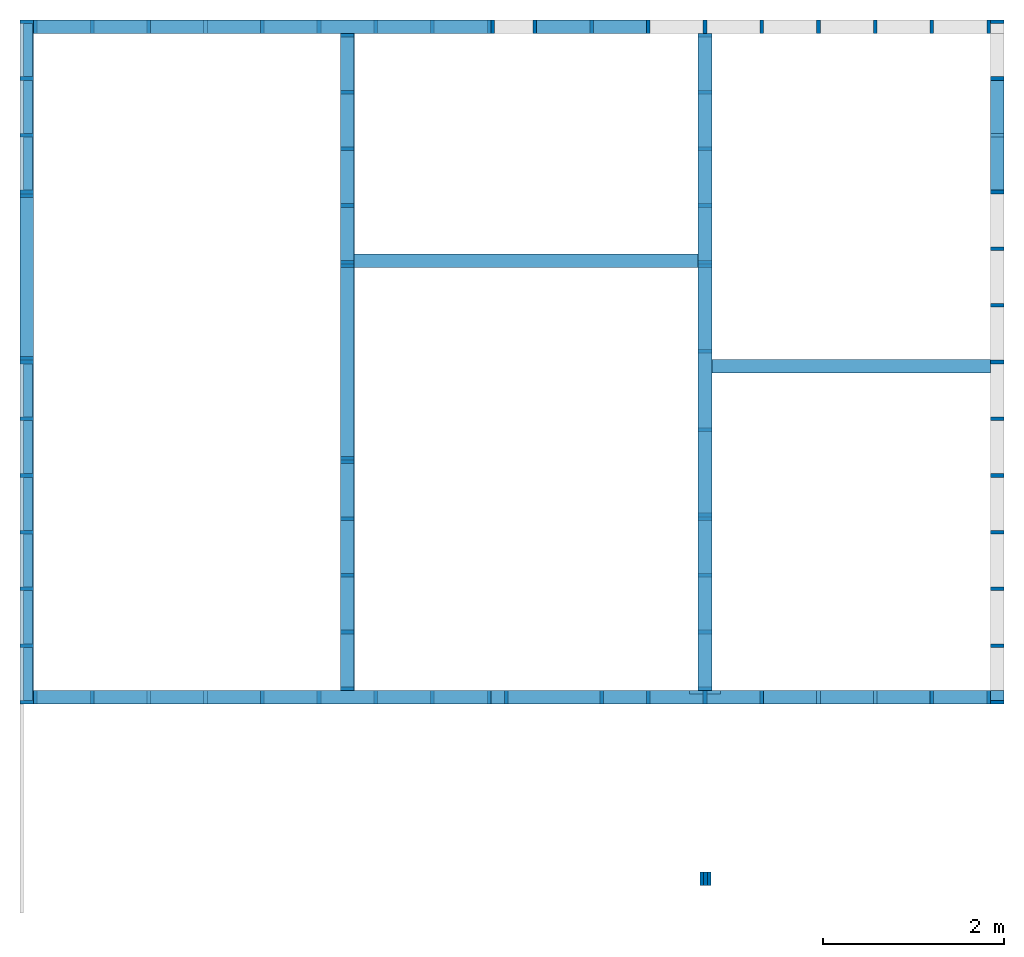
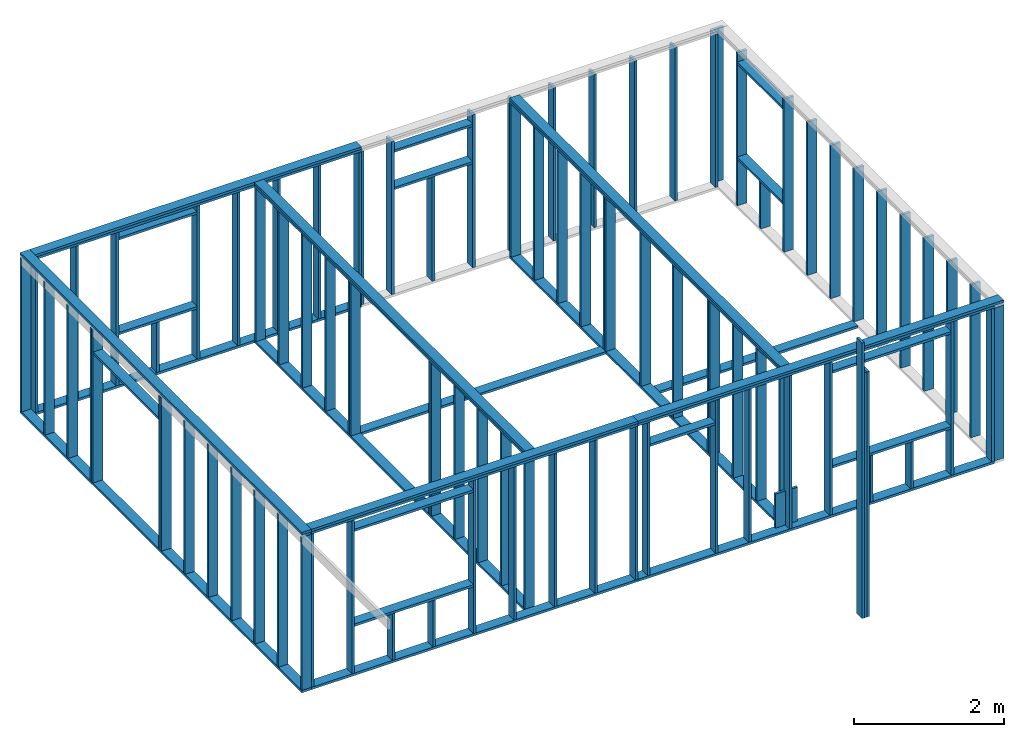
# One storey, part 1 of 2: 91 columns, 34 beams.
"""IFC4 building model written with IfcOpenShell, lengths in millimetres."""

from ifc_helpers import new_model, si_unit, derived_unit, frame, origin_with_axes, place, context, subcontext, project, spatial, line, indexed_curve, outline, extrude, polygons, source, transform, mapped, material, type_object, element, save


model = new_model("IFC4")

# Units and contexts
model_context = context("Model", 3, precision=1e-06, world=origin_with_axes())
body_context = subcontext(model_context, "Body", "Model", "MODEL_VIEW")
ifc_project = project(units=[si_unit("LENGTHUNIT", "METRE", prefix="MILLI"), si_unit("AREAUNIT", "SQUARE_METRE"), si_unit("VOLUMEUNIT", "CUBIC_METRE"), si_unit("MASSUNIT", "GRAM", prefix="KILO"), si_unit("ELECTRICVOLTAGEUNIT", "VOLT", prefix="KILO"), si_unit("THERMODYNAMICTEMPERATUREUNIT", "DEGREE_CELSIUS"), si_unit("PRESSUREUNIT", "PASCAL", prefix="MEGA"), si_unit("PLANEANGLEUNIT", "RADIAN"), derived_unit("THERMALCONDUCTANCEUNIT", [(si_unit("POWERUNIT", "WATT"), 1), (si_unit("LENGTHUNIT", "METRE"), -1), (si_unit("THERMODYNAMICTEMPERATUREUNIT", "KELVIN"), -1)]), derived_unit("MASSDENSITYUNIT", [(si_unit("MASSUNIT", "GRAM", prefix="KILO"), 1), (si_unit("VOLUMEUNIT", "CUBIC_METRE"), -1)])], contexts=[model_context])

# Site, building, storey
site_placement = place(None, origin_with_axes())
site = spatial("IfcSite", under=ifc_project, at=site_placement, CompositionType="ELEMENT")
building_placement = place(site_placement, origin_with_axes())
building = spatial("IfcBuilding", under=site, at=building_placement, CompositionType="ELEMENT")
storey_placement = place(building_placement, origin_with_axes())
storey = spatial("IfcBuildingStorey", under=building, at=storey_placement, Name="Базовый уровень", CompositionType="ELEMENT", Elevation=0.0)

# Columns
ifc_material_1 = material(Name="Древесина тёмная")
column_type = type_object("IfcColumnType", Name="Доска 40x150", PredefinedType="COLUMN")
shared_shape_1 = source(origin_with_axes(), body_context, "Body", "SweptSolid", [
    extrude(outline(indexed_curve([(-75.0, -20.0), (75.0, -20.0), (75.0, 20.0), (-75.0, 20.0)], segments=[line(1, 2), line(2, 3), line(3, 4), line(4, 1)])), origin_with_axes(), (0.0, 0.0, 1.0), 2500.0),
])
for number, where, z_axis, x_axis in (
    (1, (10770.000000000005, 7519.999999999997, 40.0), (0.0, 0.0, 1.0), (1.0, 0.0, 0.0)),
    (2, (10675.000000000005, 7464.999999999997, 40.0), (0.0, 0.0, 1.0), (0.0, 1.0, 0.0)),
    (3, (10770.000000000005, 6894.999999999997, 40.0), (0.0, 0.0, 1.0), (1.0, 0.0, 0.0)),
    (4, (10770.000000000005, 5644.999999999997, 40.0), (0.0, 0.0, 1.0), (1.0, 0.0, 0.0)),
    (5, (10770.000000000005, 5019.999999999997, 40.0), (0.0, 0.0, 1.0), (1.0, 0.0, 0.0)),
    (6, (10770.000000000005, 4394.999999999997, 40.0), (0.0, 0.0, 1.0), (1.0, 0.0, 0.0)),
    (7, (10770.000000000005, 3769.9999999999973, 40.0), (0.0, 0.0, 1.0), (1.0, 0.0, 0.0)),
    (8, (10770.000000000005, 3144.9999999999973, 40.0), (0.0, 0.0, 1.0), (1.0, 0.0, 0.0)),
    (9, (10770.000000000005, 2519.9999999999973, 40.0), (0.0, 0.0, 1.0), (1.0, 0.0, 0.0)),
    (10, (10770.000000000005, 1894.9999999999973, 40.0), (0.0, 0.0, 1.0), (1.0, 0.0, 0.0)),
    (11, (10770.000000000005, 1269.9999999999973, 40.0), (0.0, 0.0, 1.0), (1.0, 0.0, 0.0)),
    (12, (10770.000000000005, 644.9999999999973, 40.0), (0.0, 0.0, 1.0), (1.0, 0.0, 0.0)),
    (13, (10770.000000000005, 19.99999999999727, 40.0), (0.0, 0.0, 1.0), (1.0, 0.0, 0.0)),
    (14, (10050.000000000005, 7464.999999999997, 40.0), (0.0, 0.0, 1.0), (0.0, 1.0, 0.0)),
    (15, (9425.000000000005, 7464.999999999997, 40.0), (0.0, 0.0, 1.0), (0.0, 1.0, 0.0)),
    (16, (8800.000000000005, 7464.999999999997, 40.0), (0.0, 0.0, 1.0), (0.0, 1.0, 0.0)),
    (17, (8175.0000000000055, 7464.999999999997, 40.0), (0.0, 0.0, 1.0), (0.0, 1.0, 0.0)),
    (18, (7550.0000000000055, 7464.999999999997, 40.0), (0.0, 0.0, 1.0), (0.0, 1.0, 0.0)),
    (19, (6925.0000000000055, 7464.999999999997, 40.0), (0.0, 0.0, 1.0), (0.0, 1.0, 0.0)),
    (20, (5675.0000000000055, 7464.999999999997, 40.0), (0.0, 0.0, 1.0), (0.0, 1.0, 0.0)),
    (21, (5210.0, 7464.999999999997, 40.0), (0.0, 0.0, 1.0), (0.0, 1.0, 0.0)),
    (22, (5170.0, 7464.999999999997, 40.0), (0.0, 0.0, 1.0), (0.0, 1.0, 0.0)),
    (23, (4545.0, 7464.999999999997, 40.0), (0.0, 0.0, 1.0), (0.0, 1.0, 0.0)),
    (24, (3920.0, 7464.999999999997, 40.0), (0.0, 0.0, 1.0), (0.0, 1.0, 0.0)),
    (25, (3295.0, 7464.999999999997, 40.0), (0.0, 0.0, 1.0), (0.0, 1.0, 0.0)),
    (26, (2670.0, 7464.999999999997, 40.0), (0.0, 0.0, 1.0), (0.0, 1.0, 0.0)),
    (27, (1420.0, 7464.999999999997, 40.0), (0.0, 0.0, 1.0), (0.0, 1.0, 0.0)),
    (28, (795.0, 7464.999999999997, 40.0), (0.0, 0.0, 1.0), (0.0, 1.0, 0.0)),
    (29, (170.0, 7464.999999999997, 40.0), (0.0, 0.0, 1.0), (0.0, 1.0, 0.0)),
    (30, (75.0, 7519.999999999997, 40.0), (0.0, 0.0, 1.0), (1.0, 0.0, 0.0)),
    (31, (75.0, 6894.999999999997, 40.0), (0.0, 0.0, 1.0), (1.0, 0.0, 0.0)),
    (32, (75.0, 6269.999999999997, 40.0), (0.0, 0.0, 1.0), (1.0, 0.0, 0.0)),
    (33, (75.0, 5644.999999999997, 40.0), (0.0, 0.0, 1.0), (1.0, 0.0, 0.0)),
    (34, (10675.000000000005, 74.99999999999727, 40.0), (0.0, 0.0, 1.0), (0.0, 1.0, 0.0)),
    (35, (75.0, 3769.9999999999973, 40.0), (0.0, 0.0, 1.0), (1.0, 0.0, 0.0)),
    (36, (75.0, 3809.9999999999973, 40.0), (0.0, 0.0, 1.0), (1.0, 0.0, 0.0)),
    (37, (75.0, 5604.999999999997, 40.0), (0.0, 0.0, 1.0), (1.0, 0.0, 0.0)),
    (38, (10050.000000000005, 74.99999999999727, 40.0), (0.0, 0.0, 1.0), (0.0, 1.0, 0.0)),
    (39, (8175.0000000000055, 74.99999999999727, 40.0), (0.0, 0.0, 1.0), (0.0, 1.0, 0.0)),
    (40, (75.0, 3144.9999999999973, 40.0), (0.0, 0.0, 1.0), (1.0, 0.0, 0.0)),
    (41, (75.0, 2519.9999999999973, 40.0), (0.0, 0.0, 1.0), (1.0, 0.0, 0.0)),
    (42, (75.0, 1894.9999999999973, 40.0), (0.0, 0.0, 1.0), (1.0, 0.0, 0.0)),
    (43, (75.0, 1269.9999999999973, 40.0), (0.0, 0.0, 1.0), (1.0, 0.0, 0.0)),
    (44, (75.0, 644.9999999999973, 40.0), (0.0, 0.0, 1.0), (1.0, 0.0, 0.0)),
    (45, (75.0, 19.99999999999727, 40.0), (0.0, 0.0, 1.0), (1.0, 0.0, 0.0)),
    (46, (170.0, 74.99999999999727, 40.0), (0.0, 0.0, 1.0), (0.0, 1.0, 0.0)),
    (47, (795.0, 74.99999999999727, 40.0), (0.0, 0.0, 1.0), (0.0, 1.0, 0.0)),
    (48, (2670.0, 74.99999999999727, 40.0), (0.0, 0.0, 1.0), (0.0, 1.0, 0.0)),
    (49, (3295.0, 74.99999999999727, 40.0), (0.0, 0.0, 1.0), (0.0, 1.0, 0.0)),
    (50, (3920.0, 74.99999999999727, 40.0), (0.0, 0.0, 1.0), (0.0, 1.0, 0.0)),
    (51, (4545.0, 74.99999999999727, 40.0), (0.0, 0.0, 1.0), (0.0, 1.0, 0.0)),
    (52, (5170.0, 74.99999999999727, 40.0), (0.0, 0.0, 1.0), (0.0, 1.0, 0.0)),
    (53, (5360.0, 74.99999999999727, 40.0), (0.0, 0.0, 1.0), (0.0, 1.0, 0.0)),
    (54, (7550.0000000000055, 74.99999999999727, 40.0), (0.0, 0.0, 1.0), (0.0, 1.0, 0.0)),
    (55, (6925.0000000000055, 74.99999999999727, 40.0), (0.0, 0.0, 1.0), (0.0, 1.0, 0.0)),
    (56, (7550.0, 170.00000000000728, 40.0), (0.0, 0.0, 1.0), (1.0, 0.0, 0.0)),
    (57, (3607.5, 170.00000000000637, 40.0), (0.0, 0.0, 1.0), (1.0, 0.0, 0.0)),
    (58, (7549.999999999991, 7369.999999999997, 40.0), (0.0, 0.0, 1.0), (1.0, 0.0, 0.0)),
    (59, (3607.5, 7369.999999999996, 40.0), (0.0, 0.0, 1.0), (1.0, 0.0, 0.0)),
    (60, (7550.0, 795.0000000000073, 40.0), (0.0, 0.0, 1.0), (1.0, 0.0, 0.0)),
    (61, (3607.5, 795.0000000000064, 40.0), (0.0, 0.0, 1.0), (1.0, 0.0, 0.0)),
    (62, (7550.0, 1420.0000000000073, 40.0), (0.0, 0.0, 1.0), (1.0, 0.0, 0.0)),
    (63, (3607.5, 1420.0000000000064, 40.0), (0.0, 0.0, 1.0), (1.0, 0.0, 0.0)),
    (64, (7550.0, 2045.0000000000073, 40.0), (0.0, 0.0, 1.0), (1.0, 0.0, 0.0)),
    (65, (3607.5, 2045.0000000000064, 40.0), (0.0, 0.0, 1.0), (1.0, 0.0, 0.0)),
    (66, (7550.0, 2085.0000000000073, 40.0), (0.0, 0.0, 1.0), (1.0, 0.0, 0.0)),
    (67, (3607.5, 2670.0000000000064, 40.0), (0.0, 0.0, 1.0), (1.0, 0.0, 0.0)),
    (68, (7550.0, 3025.0000000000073, 40.0), (0.0, 0.0, 1.0), (1.0, 0.0, 0.0)),
    (69, (7550.0, 3889.9999999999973, 40.0), (0.0, 0.0, 1.0), (1.0, 0.0, 0.0)),
    (70, (3607.5, 2710.0000000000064, 40.0), (0.0, 0.0, 1.0), (1.0, 0.0, 0.0)),
    (71, (3607.5, 6744.999999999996, 40.0), (0.0, 0.0, 1.0), (1.0, 0.0, 0.0)),
    (72, (3607.5, 6119.999999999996, 40.0), (0.0, 0.0, 1.0), (1.0, 0.0, 0.0)),
    (73, (3607.5, 5494.999999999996, 40.0), (0.0, 0.0, 1.0), (1.0, 0.0, 0.0)),
    (74, (3607.5, 4869.999999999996, 40.0), (0.0, 0.0, 1.0), (1.0, 0.0, 0.0)),
    (75, (3607.5, 4829.999999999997, 40.0), (0.0, 0.0, 1.0), (1.0, 0.0, 0.0)),
    (76, (7550.0, 6744.999999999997, 40.0), (0.0, 0.0, 1.0), (1.0, 0.0, 0.0)),
    (77, (7550.0, 6119.999999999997, 40.0), (0.0, 0.0, 1.0), (1.0, 0.0, 0.0)),
    (78, (7550.0, 5494.999999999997, 40.0), (0.0, 0.0, 1.0), (1.0, 0.0, 0.0)),
    (79, (7550.0, 4869.999999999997, 40.0), (0.0, 0.0, 1.0), (1.0, 0.0, 0.0)),
    (80, (7550.0, 4829.999999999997, 40.0), (0.0, 0.0, 1.0), (1.0, 0.0, 0.0)),
    (81, (6410.0, 74.99999999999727, 40.0), (0.0, 0.0, 1.0), (0.0, 1.0, 0.0)),
):
    element("IfcColumn", number, at=place(storey_placement, frame(where, z_axis=z_axis, x_axis=x_axis)), inside=storey, type_object=column_type, material=ifc_material_1, Name="Колонна - Доска 40x150", context=body_context, shape_type="MappedRepresentation", body=[
        mapped(shared_shape_1, transform((0.0, 0.0, 0.0), x_axis=(1.0, 0.0, 0.0), y_axis=(0.0, 1.0, 0.0), z_axis=(0.0, 0.0, 1.0), scale=1.0)),
    ])
shared_shape_2 = source(origin_with_axes(), body_context, "Body", "SweptSolid", [
    extrude(outline(indexed_curve([(-75.0, -20.0), (75.0, -20.0), (75.0, 20.0), (-75.0, 20.0)], segments=[line(1, 2), line(2, 3), line(3, 4), line(4, 1)])), origin_with_axes(), (0.0, 0.0, 1.0), 760.0),
])
for number, where, z_axis, x_axis in (
    (82, (10770.000000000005, 6269.999999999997, 40.0), (0.0, 0.0, 1.0), (1.0, 0.0, 0.0)),
    (83, (9425.000000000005, 74.99999999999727, 40.0), (0.0, 0.0, 1.0), (0.0, 1.0, 0.0)),
    (84, (8800.000000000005, 74.99999999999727, 40.0), (0.0, 0.0, 1.0), (0.0, 1.0, 0.0)),
    (85, (1420.0, 74.99999999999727, 40.0), (0.0, 0.0, 1.0), (0.0, 1.0, 0.0)),
    (86, (2045.0, 74.99999999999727, 40.0), (0.0, 0.0, 1.0), (0.0, 1.0, 0.0)),
):
    element("IfcColumn", number, at=place(storey_placement, frame(where, z_axis=z_axis, x_axis=x_axis)), inside=storey, type_object=column_type, material=ifc_material_1, Name="Колонна - Доска 40x150", context=body_context, shape_type="MappedRepresentation", body=[
        mapped(shared_shape_2, transform((0.0, 0.0, 0.0), x_axis=(1.0, 0.0, 0.0), y_axis=(0.0, 1.0, 0.0), z_axis=(0.0, 0.0, 1.0), scale=1.0)),
    ])
shared_shape_3 = source(origin_with_axes(), body_context, "Body", "SweptSolid", [
    extrude(outline(indexed_curve([(-75.0, -20.0), (75.0, -20.0), (75.0, 20.0), (-75.0, 20.0)], segments=[line(1, 2), line(2, 3), line(3, 4), line(4, 1)])), origin_with_axes(), (0.0, 0.0, 1.0), 1700.0),
])
column_1_placement = place(storey_placement, frame((6300.0000000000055, 7464.999999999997, 40.0), z_axis=(0.0, 0.0, 1.0), x_axis=(0.0, 1.0, 0.0)))
element("IfcColumn", 87, at=column_1_placement, inside=storey, type_object=column_type, material=ifc_material_1, Name="Колонна - Доска 40x150", context=body_context, shape_type="MappedRepresentation", body=[
    mapped(shared_shape_3, transform((0.0, 0.0, 0.0), x_axis=(1.0, 0.0, 0.0), y_axis=(0.0, 1.0, 0.0), z_axis=(0.0, 0.0, 1.0), scale=1.0)),
])
shared_shape_4 = source(origin_with_axes(), body_context, "Body", "SweptSolid", [
    extrude(outline(indexed_curve([(-75.0, -20.0), (75.0, -20.0), (75.0, 20.0), (-75.0, 20.0)], segments=[line(1, 2), line(2, 3), line(3, 4), line(4, 1)])), origin_with_axes(), (0.0, 0.0, 1.0), 820.0),
])
column_2_placement = place(storey_placement, frame((2045.0, 7464.999999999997, 40.0), z_axis=(0.0, 0.0, 1.0), x_axis=(0.0, 1.0, 0.0)))
element("IfcColumn", 88, at=column_2_placement, inside=storey, type_object=column_type, material=ifc_material_1, Name="Колонна - Доска 40x150", context=body_context, shape_type="MappedRepresentation", body=[
    mapped(shared_shape_4, transform((0.0, 0.0, 0.0), x_axis=(1.0, 0.0, 0.0), y_axis=(0.0, 1.0, 0.0), z_axis=(0.0, 0.0, 1.0), scale=1.0)),
])
ifc_material_2 = material(Name="Древесина белая крашенная")
shared_shape_5 = source(origin_with_axes(), body_context, "Body", "SweptSolid", [
    extrude(outline(indexed_curve([(-75.0, -20.0), (75.0, -20.0), (75.0, 20.0), (-75.0, 20.0)], segments=[line(1, 2), line(2, 3), line(3, 4), line(4, 1)])), origin_with_axes(), (0.0, 0.0, 1.0), 4000.0),
])
for number, where, z_axis, x_axis in (
    (89, (7555.0000000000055, -1925.0000000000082, -200.0), (0.0, 0.0, 1.0), (0.0, 1.0, 0.0)),
    (90, (7595.0000000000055, -1925.0000000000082, -200.0), (0.0, 0.0, 1.0), (0.0, 1.0, 0.0)),
):
    element("IfcColumn", number, at=place(storey_placement, frame(where, z_axis=z_axis, x_axis=x_axis)), inside=storey, type_object=column_type, material=ifc_material_2, Name="Колонна - Доска 40x150", context=body_context, shape_type="MappedRepresentation", body=[
        mapped(shared_shape_5, transform((0.0, 0.0, 0.0), x_axis=(1.0, 0.0, 0.0), y_axis=(0.0, 1.0, 0.0), z_axis=(0.0, 0.0, 1.0), scale=1.0)),
    ])
shared_shape_6 = source(origin_with_axes(), body_context, "Body", "SweptSolid", [
    extrude(outline(indexed_curve([(-75.0, -20.0), (75.0, -20.0), (75.0, 20.0), (-75.0, 20.0)], segments=[line(1, 2), line(2, 3), line(3, 4), line(4, 1)])), origin_with_axes(), (0.0, 0.0, 1.0), 4500.0),
])
column_3_placement = place(storey_placement, frame((7515.0000000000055, -1925.0000000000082, -200.0), z_axis=(0.0, 0.0, 1.0), x_axis=(0.0, 1.0, 0.0)))
element("IfcColumn", 91, at=column_3_placement, inside=storey, type_object=column_type, material=ifc_material_2, Name="Колонна - Доска 40x150", context=body_context, shape_type="MappedRepresentation", body=[
    mapped(shared_shape_6, transform((0.0, 0.0, 0.0), x_axis=(1.0, 0.0, 0.0), y_axis=(0.0, 1.0, 0.0), z_axis=(0.0, 0.0, 1.0), scale=1.0)),
])

# Beams
ifc_material_3 = material(Name="Древесина конструктивная")
beam_type_1 = type_object("IfcBeamType", Name="Доска 40х150", PredefinedType="BEAM")
shared_shape_7 = source(origin_with_axes(), body_context, "Body", "Tessellation", [
    polygons([(10695.000000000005, 149.99999999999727, 0.0), (10695.000000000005, 149.99999999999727, 40.0), (10695.000000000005, -2.728e-12, 40.0), (10695.000000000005, -2.728e-12, 0.0), (5190.000000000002, 149.99999999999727, 0.0), (5190.000000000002, 149.99999999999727, 40.0), (5190.000000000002, -2.728e-12, 40.0), (5190.000000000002, -2.728e-12, 0.0)], [[[1, 2, 3, 4]], [[5, 6, 2, 1]], [[6, 7, 3, 2]], [[7, 8, 4, 3]], [[8, 5, 1, 4]], [[5, 8, 7, 6]]], closed=True),
])
beam_1_placement = place(storey_placement, frame((5190.000000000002, 149.99999999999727, 0.0), z_axis=(-1.0, 0.0, 0.0), x_axis=(0.0, -1.0, 0.0)))
element("IfcBeam", 92, at=beam_1_placement, inside=storey, type_object=beam_type_1, material=ifc_material_3, Name="Балка - Доска 40х150", context=body_context, shape_type="MappedRepresentation", body=[
    mapped(shared_shape_7, transform((149.99999999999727, 0.0, 5190.000000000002), x_axis=(0.0, 0.0, -1.0), y_axis=(-1.0, 0.0, 0.0), z_axis=(0.0, 1.0, 0.0), scale=1.0)),
])
shared_shape_8 = source(origin_with_axes(), body_context, "Body", "Tessellation", [
    polygons([(0.0, 0.0, 0.0), (0.0, 40.0, 0.0), (0.0, 40.0, -7540.000000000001), (0.0, 0.0, -7540.000000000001), (150.0, 40.0, 0.0), (150.0, 40.0, -7540.000000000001), (150.0, 0.0, 0.0), (150.0, 0.0, -7540.000000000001)], [[[1, 2, 3, 4]], [[2, 5, 6, 3]], [[5, 7, 8, 6]], [[7, 1, 4, 8]], [[4, 3, 6, 8]], [[1, 7, 5, 2]]], closed=True),
])
for number, where, z_axis, x_axis in (
    (93, (0.0, 0.0, 0.0), (0.0, -1.0, 0.0), (1.0, 0.0, 0.0)),
    (94, (0.0, -7.276e-12, 2580.0), (0.0, -1.0, 0.0), (1.0, 0.0, 0.0)),
):
    element("IfcBeam", number, at=place(storey_placement, frame(where, z_axis=z_axis, x_axis=x_axis)), inside=storey, type_object=beam_type_1, material=ifc_material_3, Name="Балка - Доска 40х150", context=body_context, shape_type="MappedRepresentation", body=[
        mapped(shared_shape_8, transform((0.0, 0.0, 0.0), x_axis=(1.0, 0.0, 0.0), y_axis=(0.0, 1.0, 0.0), z_axis=(0.0, 0.0, 1.0), scale=1.0)),
    ])
shared_shape_9 = source(origin_with_axes(), body_context, "Body", "Tessellation", [
    polygons([(7625.0, 7389.999999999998, 0.0), (7475.0, 7389.999999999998, 0.0), (7475.0, 7389.999999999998, 40.0), (7625.0, 7389.999999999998, 40.0), (7625.0, 150.00000000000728, 0.0), (7475.0, 150.00000000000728, 0.0), (7475.0, 150.00000000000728, 40.0), (7625.0, 150.00000000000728, 40.0)], [[[1, 2, 3, 4]], [[2, 1, 5, 6]], [[3, 2, 6, 7]], [[4, 3, 7, 8]], [[1, 4, 8, 5]], [[5, 8, 7, 6]]], closed=True),
])
beam_2_placement = place(storey_placement, frame((7475.0, 7389.999999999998, 0.0), z_axis=(0.0, 1.0, 0.0), x_axis=(-1.0, 0.0, 0.0)))
element("IfcBeam", 95, at=beam_2_placement, inside=storey, type_object=beam_type_1, material=ifc_material_3, Name="Балка - Доска 40х150", context=body_context, shape_type="MappedRepresentation", body=[
    mapped(shared_shape_9, transform((7475.0, 0.0, -7389.999999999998), x_axis=(-1.0, 0.0, 0.0), y_axis=(0.0, 0.0, 1.0), z_axis=(0.0, 1.0, 0.0), scale=1.0)),
])
shared_shape_10 = source(origin_with_axes(), body_context, "Body", "SweptSolid", [
    extrude(outline(indexed_curve([(-150.0, 0.0), (0.0, 0.0), (0.0, 40.0), (-150.0, 40.0)], segments=[line(1, 2), line(2, 3), line(3, 4), line(4, 1)])), origin_with_axes(), (0.0, 0.0, -1.0), 553.8981422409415),
])
for number, where, z_axis, x_axis in (
    (96, (7570.0, 110.0, 40.0), (0.0, 0.0, -1.0), (-1.0, 0.0, 0.0)),
    (97, (7380.0, 110.0, 40.0), (0.0, 0.0, -1.0), (-1.0, 0.0, 0.0)),
):
    element("IfcBeam", number, at=place(storey_placement, frame(where, z_axis=z_axis, x_axis=x_axis)), inside=storey, type_object=beam_type_1, material=ifc_material_3, Name="Балка - Доска 40х150", context=body_context, shape_type="MappedRepresentation", body=[
        mapped(shared_shape_10, transform((0.0, 0.0, 0.0), x_axis=(1.0, 0.0, 0.0), y_axis=(0.0, 1.0, 0.0), z_axis=(0.0, 0.0, 1.0), scale=1.0)),
    ])
shared_shape_11 = source(origin_with_axes(), body_context, "Body", "Tessellation", [
    polygons([(3682.5, 150.00000000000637, 0.0), (3682.5, 150.00000000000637, 40.0), (3532.5, 150.00000000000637, 40.0), (3532.5, 150.00000000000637, 0.0), (3682.5, 7389.999999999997, 0.0), (3682.5, 7389.999999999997, 40.0), (3532.5, 7389.999999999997, 40.0), (3532.5, 7389.999999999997, 0.0)], [[[1, 2, 3, 4]], [[5, 6, 2, 1]], [[6, 7, 3, 2]], [[7, 8, 4, 3]], [[8, 5, 1, 4]], [[5, 8, 7, 6]]], closed=True),
])
beam_3_placement = place(storey_placement, frame((3532.5, 7389.999999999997, 0.0), z_axis=(0.0, 1.0, 0.0), x_axis=(-1.0, 0.0, 0.0)))
element("IfcBeam", 98, at=beam_3_placement, inside=storey, type_object=beam_type_1, material=ifc_material_3, Name="Балка - Доска 40х150", context=body_context, shape_type="MappedRepresentation", body=[
    mapped(shared_shape_11, transform((3532.5, 0.0, -7389.999999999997), x_axis=(-1.0, 0.0, 0.0), y_axis=(0.0, 0.0, 1.0), z_axis=(0.0, 1.0, 0.0), scale=1.0)),
])
shared_shape_12 = source(origin_with_axes(), body_context, "Body", "SweptSolid", [
    extrude(outline(indexed_curve([(-150.0, 0.0), (0.0, 0.0), (0.0, 40.0), (-150.0, 40.0)], segments=[line(1, 2), line(2, 3), line(3, 4), line(4, 1)])), origin_with_axes(), (0.0, 0.0, -1.0), 1835.0000000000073),
])
for number, where, z_axis, x_axis in (
    (99, (8194.999999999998, 0.0, 800.0), (-1.0, 0.0, 0.0), (0.0, -1.0, 0.0)),
    (100, (815.0000000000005, 0.0, 800.0), (-1.0, 0.0, 0.0), (0.0, -1.0, 0.0)),
    (101, (815.0000000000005, 0.0, 2350.0), (-1.0, 0.0, 0.0), (0.0, -1.0, 0.0)),
    (102, (8194.999999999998, -2.728e-12, 2350.0), (-1.0, 0.0, 0.0), (0.0, -1.0, 0.0)),
):
    element("IfcBeam", number, at=place(storey_placement, frame(where, z_axis=z_axis, x_axis=x_axis)), inside=storey, type_object=beam_type_1, material=ifc_material_3, Name="Балка - Доска 40х150", context=body_context, shape_type="MappedRepresentation", body=[
        mapped(shared_shape_12, transform((0.0, 0.0, 0.0), x_axis=(1.0, 0.0, 0.0), y_axis=(0.0, 1.0, 0.0), z_axis=(0.0, 0.0, 1.0), scale=1.0)),
    ])
shared_shape_13 = source(origin_with_axes(), body_context, "Body", "SweptSolid", [
    extrude(outline(indexed_curve([(-150.0, 0.0), (0.0, 0.0), (0.0, 40.0), (-150.0, 40.0)], segments=[line(1, 2), line(2, 3), line(3, 4), line(4, 1)])), origin_with_axes(), (0.0, 0.0, -1.0), 1010.0),
])
beam_4_placement = place(storey_placement, frame((5380.0, -2.728e-12, 2140.0), z_axis=(-1.0, 0.0, 0.0), x_axis=(0.0, -1.0, 0.0)))
element("IfcBeam", 103, at=beam_4_placement, inside=storey, type_object=beam_type_1, material=ifc_material_3, Name="Балка - Доска 40х150", context=body_context, shape_type="MappedRepresentation", body=[
    mapped(shared_shape_13, transform((0.0, 0.0, 0.0), x_axis=(1.0, 0.0, 0.0), y_axis=(0.0, 1.0, 0.0), z_axis=(0.0, 0.0, 1.0), scale=1.0)),
])
shared_shape_14 = source(origin_with_axes(), body_context, "Body", "Tessellation", [
    polygons([(0.0, 0.0, 0.0), (150.0, 0.0, 0.0), (150.0, 40.0, 0.0), (0.0, 40.0, 0.0), (0.0, 0.0, -5040.000000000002), (150.0, 0.0, -5040.000000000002), (150.0, 40.0, -5040.000000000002), (0.0, 40.0, -5040.000000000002)], [[[1, 2, 3, 4]], [[2, 1, 5, 6]], [[3, 2, 6, 7]], [[4, 3, 7, 8]], [[1, 4, 8, 5]], [[5, 8, 7, 6]]], closed=True),
])
for number, where, z_axis, x_axis in (
    (104, (150.0, 150.0, 0.0), (-1.0, 0.0, 0.0), (0.0, -1.0, 0.0)),
    (105, (150.0, 149.99999999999, 2540.0), (-1.0, 0.0, 0.0), (0.0, -1.0, 0.0)),
    (106, (150.0, 149.99999999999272, 2580.0), (-1.0, 0.0, 0.0), (0.0, -1.0, 0.0)),
):
    element("IfcBeam", number, at=place(storey_placement, frame(where, z_axis=z_axis, x_axis=x_axis)), inside=storey, type_object=beam_type_1, material=ifc_material_3, Name="Балка - Доска 40х150", context=body_context, shape_type="MappedRepresentation", body=[
        mapped(shared_shape_14, transform((0.0, 0.0, 0.0), x_axis=(1.0, 0.0, 0.0), y_axis=(0.0, 1.0, 0.0), z_axis=(0.0, 0.0, 1.0), scale=1.0)),
    ])
shared_shape_15 = source(origin_with_axes(), body_context, "Body", "SweptSolid", [
    extrude(outline(indexed_curve([(0.0, 0.0), (150.0, 0.0), (150.0, 40.0), (0.0, 40.0)], segments=[line(1, 2), line(2, 3), line(3, 4), line(4, 1)])), origin_with_axes(), (0.0, 0.0, -1.0), 5040.000000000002),
])
for number, where, z_axis, x_axis in (
    (107, (150.0, 7539.999999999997, 0.0), (-1.0, 0.0, 0.0), (0.0, -1.0, 0.0)),
    (108, (150.0, 7539.99999999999, 2540.0), (-1.0, 0.0, 0.0), (0.0, -1.0, 0.0)),
    (109, (150.0, 7539.999999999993, 2580.0), (-1.0, 0.0, 0.0), (0.0, -1.0, 0.0)),
):
    element("IfcBeam", number, at=place(storey_placement, frame(where, z_axis=z_axis, x_axis=x_axis)), inside=storey, type_object=beam_type_1, material=ifc_material_3, Name="Балка - Доска 40х150", context=body_context, shape_type="MappedRepresentation", body=[
        mapped(shared_shape_15, transform((0.0, 0.0, 0.0), x_axis=(1.0, 0.0, 0.0), y_axis=(0.0, 1.0, 0.0), z_axis=(0.0, 0.0, 1.0), scale=1.0)),
    ])
shared_shape_16 = source(origin_with_axes(), body_context, "Body", "SweptSolid", [
    extrude(outline(indexed_curve([(-150.0, 0.0), (0.0, 0.0), (0.0, 40.0), (-150.0, 40.0)], segments=[line(1, 2), line(2, 3), line(3, 4), line(4, 1)])), origin_with_axes(), (0.0, 0.0, -1.0), 1210.0),
])
for number, where, z_axis, x_axis in (
    (110, (10695.000000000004, 6874.999999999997, 800.0), (0.0, 1.0, 0.0), (-1.0, 0.0, 0.0)),
    (111, (1440.0, 7389.999999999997, 860.0), (-1.0, 0.0, 0.0), (0.0, -1.0, 0.0)),
    (112, (5695.0000000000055, 7389.999999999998, 1739.9999999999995), (-1.0, 0.0, 0.0), (0.0, -1.0, 0.0)),
    (113, (10695.000000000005, 6874.999999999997, 2350.0), (0.0, 1.0, 0.0), (-1.0, 0.0, 0.0)),
    (114, (5694.999999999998, 7389.999999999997, 2350.0), (-1.0, 0.0, 0.0), (0.0, -1.0, 0.0)),
    (115, (1440.0, 7389.999999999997, 2410.0), (-1.0, 0.0, 0.0), (0.0, -1.0, 0.0)),
):
    element("IfcBeam", number, at=place(storey_placement, frame(where, z_axis=z_axis, x_axis=x_axis)), inside=storey, type_object=beam_type_1, material=ifc_material_3, Name="Балка - Доска 40х150", context=body_context, shape_type="MappedRepresentation", body=[
        mapped(shared_shape_16, transform((0.0, 0.0, 0.0), x_axis=(1.0, 0.0, 0.0), y_axis=(0.0, 1.0, 0.0), z_axis=(0.0, 0.0, 1.0), scale=1.0)),
    ])
shared_shape_17 = source(origin_with_axes(), body_context, "Body", "SweptSolid", [
    extrude(outline(indexed_curve([(-150.0, 0.0), (0.0, 0.0), (0.0, 40.0), (-150.0, 40.0)], segments=[line(1, 2), line(2, 3), line(3, 4), line(4, 1)])), origin_with_axes(), (0.0, 0.0, -1.0), 1754.9999999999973),
])
beam_5_placement = place(storey_placement, frame((0.0, 5584.999999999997, 2140.0000000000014), z_axis=(3e-15, 1.0, 0.0), x_axis=(-1.0, 3e-15, 0.0)))
element("IfcBeam", 116, at=beam_5_placement, inside=storey, type_object=beam_type_1, material=ifc_material_3, Name="Балка - Доска 40х150", context=body_context, shape_type="MappedRepresentation", body=[
    mapped(shared_shape_17, transform((0.0, 0.0, 0.0), x_axis=(1.0, 0.0, 0.0), y_axis=(0.0, 1.0, 0.0), z_axis=(0.0, 0.0, 1.0), scale=1.0)),
])
shared_shape_18 = source(origin_with_axes(), body_context, "Body", "Tessellation", [
    polygons([(10695.000000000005, 149.99999999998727, 2540.0), (10695.000000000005, 149.99999999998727, 2580.0), (10695.000000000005, -1.2733e-11, 2580.0), (10695.000000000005, -1.2733e-11, 2540.0), (5190.000000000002, 149.99999999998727, 2540.0), (5190.000000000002, 149.99999999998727, 2580.0), (5190.000000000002, -1.2733e-11, 2580.0), (5190.000000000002, -1.2733e-11, 2540.0)], [[[1, 2, 3, 4]], [[5, 6, 2, 1]], [[6, 7, 3, 2]], [[7, 8, 4, 3]], [[8, 5, 1, 4]], [[5, 8, 7, 6]]], closed=True),
])
beam_6_placement = place(storey_placement, frame((5190.000000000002, 149.99999999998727, 2540.0), z_axis=(-1.0, 0.0, 0.0), x_axis=(0.0, -1.0, 0.0)))
element("IfcBeam", 117, at=beam_6_placement, inside=storey, type_object=beam_type_1, material=ifc_material_3, Name="Балка - Доска 40х150", context=body_context, shape_type="MappedRepresentation", body=[
    mapped(shared_shape_18, transform((149.99999999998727, -2540.0, 5190.000000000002), x_axis=(0.0, 0.0, -1.0), y_axis=(-1.0, 0.0, 0.0), z_axis=(0.0, 1.0, 0.0), scale=1.0)),
])
beam_type_2 = type_object("IfcBeamType", Name="Доска 40х100", PredefinedType="BEAM")
shared_shape_19 = source(origin_with_axes(), body_context, "Body", "SweptSolid", [
    extrude(outline(indexed_curve([(0.0, 0.0), (100.0, 0.0), (100.0, 40.0), (0.0, 40.0)], segments=[line(1, 2), line(2, 3), line(3, 4), line(4, 1)])), origin_with_axes(), (0.0, 0.0, -1.0), 7540.000000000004),
])
beam_7_placement = place(storey_placement, frame((40.0, -1.0004e-11, 2540.0), z_axis=(0.0, -1.0, 0.0), x_axis=(1.0, 0.0, 0.0)))
element("IfcBeam", 118, at=beam_7_placement, inside=storey, type_object=beam_type_2, material=ifc_material_3, Name="Балка - Доска 40х100", context=body_context, shape_type="MappedRepresentation", body=[
    mapped(shared_shape_19, transform((0.0, 0.0, 0.0), x_axis=(1.0, 0.0, 0.0), y_axis=(0.0, 1.0, 0.0), z_axis=(0.0, 0.0, 1.0), scale=1.0)),
])
shared_shape_20 = source(origin_with_axes(), body_context, "Body", "Tessellation", [
    polygons([(3534.366626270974, 150.00000000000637, 2540.0), (3684.366626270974, 150.00000000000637, 2540.0), (3684.366626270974, 150.00000000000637, 2580.0), (3534.366626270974, 150.00000000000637, 2580.0), (3534.366626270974, 7390.000000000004, 2540.0), (3684.366626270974, 7390.000000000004, 2540.0), (3684.366626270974, 7390.000000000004, 2580.0), (3534.366626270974, 7390.000000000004, 2580.0)], [[[1, 2, 3, 4]], [[2, 1, 5, 6]], [[3, 2, 6, 7]], [[4, 3, 7, 8]], [[1, 4, 8, 5]], [[5, 8, 7, 6]]], closed=True),
])
beam_8_placement = place(storey_placement, frame((3534.366626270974, 150.00000000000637, 2540.0), z_axis=(0.0, -1.0, 0.0), x_axis=(1.0, 0.0, 0.0)))
element("IfcBeam", 119, at=beam_8_placement, inside=storey, type_object=beam_type_1, material=ifc_material_3, Name="Балка - Доска 40х150", context=body_context, shape_type="MappedRepresentation", body=[
    mapped(shared_shape_20, transform((-3534.366626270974, -2540.0, 150.00000000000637), x_axis=(1.0, 0.0, 0.0), y_axis=(0.0, 0.0, -1.0), z_axis=(0.0, 1.0, 0.0), scale=1.0)),
])
shared_shape_21 = source(origin_with_axes(), body_context, "Body", "Tessellation", [
    polygons([(7475.0, 7389.999999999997, 2540.0), (7475.0, 7389.999999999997, 2580.0), (7625.0, 7389.999999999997, 2580.0), (7625.0, 7389.999999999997, 2540.0), (7475.0, 150.0, 2540.0), (7475.0, 150.0, 2580.0), (7625.0, 150.0, 2580.0), (7625.0, 150.0, 2540.0)], [[[1, 2, 3, 4]], [[5, 6, 2, 1]], [[6, 7, 3, 2]], [[7, 8, 4, 3]], [[8, 5, 1, 4]], [[5, 8, 7, 6]]], closed=True),
])
beam_9_placement = place(storey_placement, frame((7475.0, 150.0, 2540.0), z_axis=(0.0, -1.0, 0.0), x_axis=(1.0, 0.0, 0.0)))
element("IfcBeam", 120, at=beam_9_placement, inside=storey, type_object=beam_type_1, material=ifc_material_3, Name="Балка - Доска 40х150", context=body_context, shape_type="MappedRepresentation", body=[
    mapped(shared_shape_21, transform((-7475.0, -2540.0, 150.0), x_axis=(1.0, 0.0, 0.0), y_axis=(0.0, 0.0, -1.0), z_axis=(0.0, 1.0, 0.0), scale=1.0)),
])
shared_shape_22 = source(origin_with_axes(), body_context, "Body", "Tessellation", [
    polygons([(10695.000000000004, 3800.0000000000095, 0.0), (10695.000000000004, 3800.0000000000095, 40.0), (10695.000000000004, 3650.0000000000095, 40.0), (10695.000000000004, 3650.0000000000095, 0.0), (7625.0, 3800.000000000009, 0.0), (7625.0, 3800.000000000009, 40.0), (7625.0, 3650.000000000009, 40.0), (7625.0, 3650.000000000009, 0.0)], [[[1, 2, 3, 4]], [[5, 6, 2, 1]], [[6, 7, 3, 2]], [[7, 8, 4, 3]], [[8, 5, 1, 4]], [[5, 8, 7, 6]]], closed=True),
])
beam_10_placement = place(storey_placement, frame((7625.0, 3650.000000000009, 0.0), z_axis=(-1.0, 0.0, 0.0), x_axis=(0.0, -1.0, 0.0)))
element("IfcBeam", 121, at=beam_10_placement, inside=storey, type_object=beam_type_1, material=ifc_material_3, Name="Балка - Доска 40х150", context=body_context, shape_type="MappedRepresentation", body=[
    mapped(shared_shape_22, transform((3650.000000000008, 0.0, 7625.000000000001), x_axis=(0.0, 0.0, -1.0), y_axis=(-1.0, 0.0, 0.0), z_axis=(0.0, 1.0, 0.0), scale=1.0)),
])
shared_shape_23 = source(origin_with_axes(), body_context, "Body", "Tessellation", [
    polygons([(7475.0, 4959.999999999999, 0.0), (7475.0, 4959.999999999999, 40.0), (7475.0, 4809.999999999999, 40.0), (7475.0, 4809.999999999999, 0.0), (3682.5, 4959.999999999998, 0.0), (3682.5, 4959.999999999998, 40.0), (3682.5, 4809.999999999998, 40.0), (3682.5, 4809.999999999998, 0.0)], [[[1, 2, 3, 4]], [[5, 6, 2, 1]], [[6, 7, 3, 2]], [[7, 8, 4, 3]], [[8, 5, 1, 4]], [[5, 8, 7, 6]]], closed=True),
])
beam_11_placement = place(storey_placement, frame((3682.5, 4809.999999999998, 0.0), z_axis=(-1.0, 0.0, 0.0), x_axis=(0.0, -1.0, 0.0)))
element("IfcBeam", 122, at=beam_11_placement, inside=storey, type_object=beam_type_1, material=ifc_material_3, Name="Балка - Доска 40х150", context=body_context, shape_type="MappedRepresentation", body=[
    mapped(shared_shape_23, transform((4809.999999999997, 0.0, 3682.5000000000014), x_axis=(0.0, 0.0, -1.0), y_axis=(-1.0, 0.0, 0.0), z_axis=(0.0, 1.0, 0.0), scale=1.0)),
])
shared_shape_24 = source(origin_with_axes(), body_context, "Body", "Tessellation", [
    polygons([(0.0, 0.0, 0.0), (0.0, 40.0, 0.0), (0.0, 40.0, -5655.000000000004), (0.0, 0.0, -5655.000000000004), (150.0, 40.0, 0.0), (150.0, 40.0, -5655.000000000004), (150.0, 0.0, 0.0), (150.0, 0.0, -5655.000000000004)], [[[1, 2, 3, 4]], [[2, 5, 6, 3]], [[5, 7, 8, 6]], [[7, 1, 4, 8]], [[4, 3, 6, 8]], [[1, 7, 5, 2]]], closed=True),
])
beam_12_placement = place(storey_placement, frame((5190.000000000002, 149.99999999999, 2580.0), z_axis=(-1.0, 0.0, 0.0), x_axis=(0.0, -1.0, 0.0)))
element("IfcBeam", 123, at=beam_12_placement, inside=storey, type_object=beam_type_1, material=ifc_material_3, Name="Балка - Доска 40х150", context=body_context, shape_type="MappedRepresentation", body=[
    mapped(shared_shape_24, transform((0.0, 0.0, 0.0), x_axis=(1.0, 0.0, 0.0), y_axis=(0.0, 1.0, 0.0), z_axis=(0.0, 0.0, 1.0), scale=1.0)),
])
shared_shape_25 = source(origin_with_axes(), body_context, "Body", "Tessellation", [
    polygons([(3532.5, 150.00000000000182, 2580.0), (3682.5, 150.00000000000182, 2580.0), (3682.5, 150.00000000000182, 2620.0), (3532.5, 150.00000000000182, 2620.0), (3532.5, 7389.999999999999, 2580.0), (3682.5, 7389.999999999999, 2580.0), (3682.5, 7389.999999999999, 2620.0), (3532.5, 7389.999999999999, 2620.0)], [[[1, 2, 3, 4]], [[2, 1, 5, 6]], [[3, 2, 6, 7]], [[4, 3, 7, 8]], [[1, 4, 8, 5]], [[5, 8, 7, 6]]], closed=True),
])
beam_13_placement = place(storey_placement, frame((3532.5, 150.00000000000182, 2580.0), z_axis=(0.0, -1.0, 0.0), x_axis=(1.0, 0.0, 0.0)))
element("IfcBeam", 124, at=beam_13_placement, inside=storey, type_object=beam_type_1, material=ifc_material_3, Name="Балка - Доска 40х150", context=body_context, shape_type="MappedRepresentation", body=[
    mapped(shared_shape_25, transform((-3532.5, -2580.0, 150.00000000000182), x_axis=(1.0, 0.0, 0.0), y_axis=(0.0, 0.0, -1.0), z_axis=(0.0, 1.0, 0.0), scale=1.0)),
])
shared_shape_26 = source(origin_with_axes(), body_context, "Body", "Tessellation", [
    polygons([(7475.0, 7390.0, 2580.0), (7475.0, 7390.0, 2620.0), (7625.0, 7390.0, 2620.0), (7625.0, 7390.0, 2580.0), (7475.0, 150.00000000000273, 2580.0), (7475.0, 150.00000000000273, 2620.0), (7625.0, 150.00000000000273, 2620.0), (7625.0, 150.00000000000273, 2580.0)], [[[1, 2, 3, 4]], [[5, 6, 2, 1]], [[6, 7, 3, 2]], [[7, 8, 4, 3]], [[8, 5, 1, 4]], [[5, 8, 7, 6]]], closed=True),
])
beam_14_placement = place(storey_placement, frame((7475.0, 150.00000000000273, 2580.0), z_axis=(0.0, -1.0, 0.0), x_axis=(1.0, 0.0, 0.0)))
element("IfcBeam", 125, at=beam_14_placement, inside=storey, type_object=beam_type_1, material=ifc_material_3, Name="Балка - Доска 40х150", context=body_context, shape_type="MappedRepresentation", body=[
    mapped(shared_shape_26, transform((-7475.0, -2580.0, 150.00000000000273), x_axis=(1.0, 0.0, 0.0), y_axis=(0.0, 0.0, -1.0), z_axis=(0.0, 1.0, 0.0), scale=1.0)),
])

save(model, "model.ifc")
